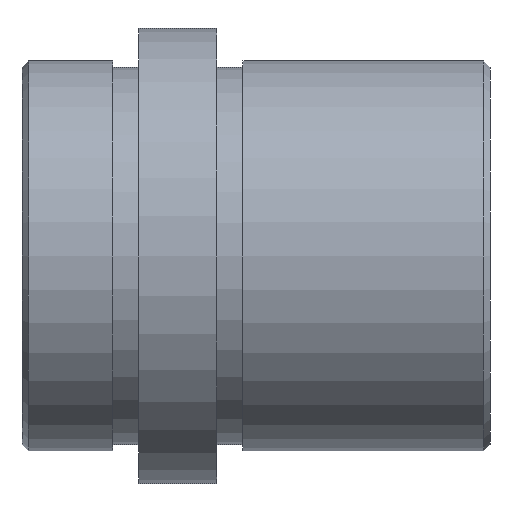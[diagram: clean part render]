
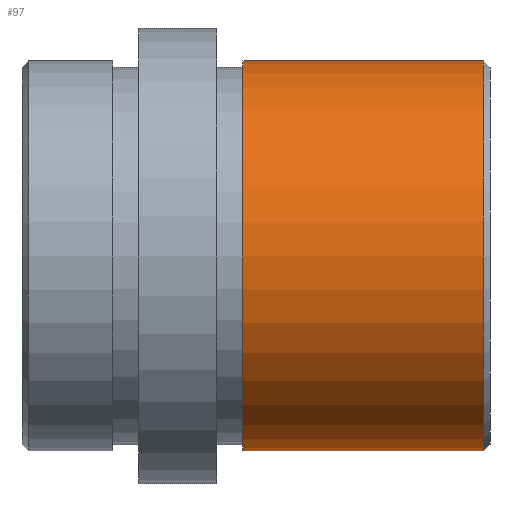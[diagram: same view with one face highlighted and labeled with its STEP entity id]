
A CAD part, front view. The second image highlights one B-rep face of the part: STEP entity #97.
In plain terms, the highlighted face is a revolution surface.
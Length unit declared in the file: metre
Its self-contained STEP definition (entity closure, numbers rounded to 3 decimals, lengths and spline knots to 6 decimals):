
#97 = ADVANCED_FACE( '', ( #149 ), #150, .F. );
#149 = FACE_OUTER_BOUND( '', #235, .T. );
#150 = SURFACE_OF_REVOLUTION( '', #236, #237 );
#235 = EDGE_LOOP( '', ( #403, #404, #405, #406 ) );
#236 = B_SPLINE_CURVE_WITH_KNOTS( '', 1, ( #407, #408 ), .UNSPECIFIED., .F., .F., ( 2, 2 ), ( -10000., 10000. ), .UNSPECIFIED. );
#237 = AXIS1_PLACEMENT( '', #409, #410 );
#403 = ORIENTED_EDGE( '', *, *, #482, .T. );
#404 = ORIENTED_EDGE( '', *, *, #485, .T. );
#405 = ORIENTED_EDGE( '', *, *, #489, .F. );
#406 = ORIENTED_EDGE( '', *, *, #483, .T. );
#407 = CARTESIAN_POINT( '', ( 10000.0355, 0., 0.015 ) );
#408 = CARTESIAN_POINT( '', ( -9999.9645, 0., 0.015 ) );
#409 = CARTESIAN_POINT( '', ( 0., 0., 0. ) );
#410 = DIRECTION( '', ( 1., 0., 0. ) );
#482 = EDGE_CURVE( '', #552, #554, #560, .T. );
#483 = EDGE_CURVE( '', #561, #552, #562, .F. );
#485 = EDGE_CURVE( '', #554, #563, #565, .T. );
#489 = EDGE_CURVE( '', #561, #563, #571, .T. );
#552 = VERTEX_POINT( '', #646 );
#554 = VERTEX_POINT( '', #649 );
#560 = CIRCLE( '', #658, 0.015 );
#561 = VERTEX_POINT( '', #659 );
#562 = LINE( '', #660, #661 );
#563 = VERTEX_POINT( '', #662 );
#565 = LINE( '', #664, #665 );
#571 = CIRCLE( '', #673, 0.015 );
#646 = CARTESIAN_POINT( '', ( 0.0355, 0., -0.015 ) );
#649 = CARTESIAN_POINT( '', ( 0.0355, 0., 0.015 ) );
#658 = AXIS2_PLACEMENT_3D( '', #772, #773, #774 );
#659 = CARTESIAN_POINT( '', ( 0.017, 0., -0.015 ) );
#660 = CARTESIAN_POINT( '', ( 0.0355, 0., -0.015 ) );
#661 = VECTOR( '', #775, 1. );
#662 = CARTESIAN_POINT( '', ( 0.017, 0., 0.015 ) );
#664 = CARTESIAN_POINT( '', ( 0.0355, 0., 0.015 ) );
#665 = VECTOR( '', #779, 1. );
#673 = AXIS2_PLACEMENT_3D( '', #785, #786, #787 );
#772 = CARTESIAN_POINT( '', ( 0.0355, 0., 0. ) );
#773 = DIRECTION( '', ( -1., 0., 0. ) );
#774 = DIRECTION( '', ( 0., 0., 1. ) );
#775 = DIRECTION( '', ( -1., 0., 0. ) );
#779 = DIRECTION( '', ( -1., 0., 0. ) );
#785 = CARTESIAN_POINT( '', ( 0.017, 0., 0. ) );
#786 = DIRECTION( '', ( -1., 0., 0. ) );
#787 = DIRECTION( '', ( 0., 0., 1. ) );
